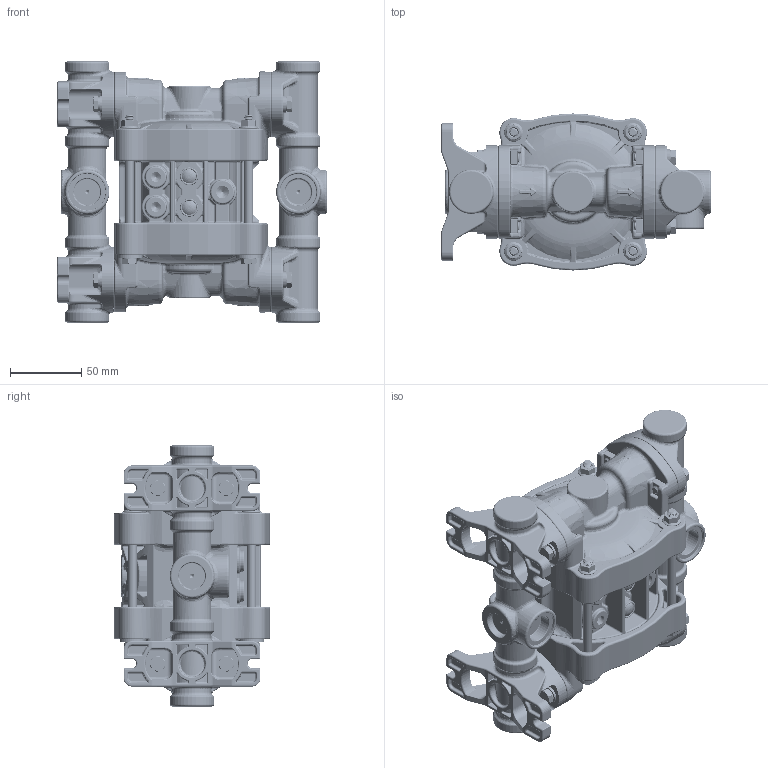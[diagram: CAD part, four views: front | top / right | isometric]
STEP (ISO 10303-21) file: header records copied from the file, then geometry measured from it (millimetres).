
FILE_DESCRIPTION (( 'STEP AP203' ), '1' );
FILE_NAME ('P35 Alluminio.STEP', '2023-08-09T14:33:05', ( '' ), ( '' ), 'SwSTEP 2.0', 'SolidWorks 2023', '' );
FILE_SCHEMA (( 'CONFIG_CONTROL_DESIGN' ));
Length unit declared in the file: millimetre
Products named in the file (1): P35 Alluminio
Bounding box: 189 x 110 x 183 mm (x, y, z)
Volume: 783425.5 mm3; surface area: 322133.4 mm2
Topology: 44 solids, 44 shells, 8531 faces, 19179 edges, 10468 vertices
Faces by surface type: cylinder 2346, torus 2156, bspline 1572, cone 1136, plane 907, sphere 414
Entity records: 298919 total; most frequent: CARTESIAN_POINT 120170, DIRECTION 38806, ORIENTED_EDGE 37464, EDGE_CURVE 18732, AXIS2_PLACEMENT_3D 17006, VERTEX_POINT 10394, CIRCLE 10046, EDGE_LOOP 8766
